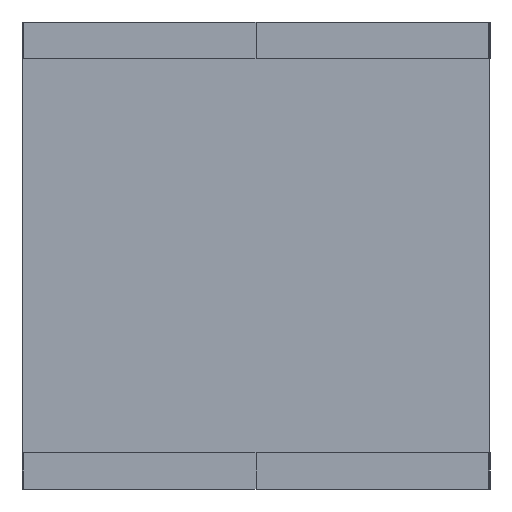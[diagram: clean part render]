
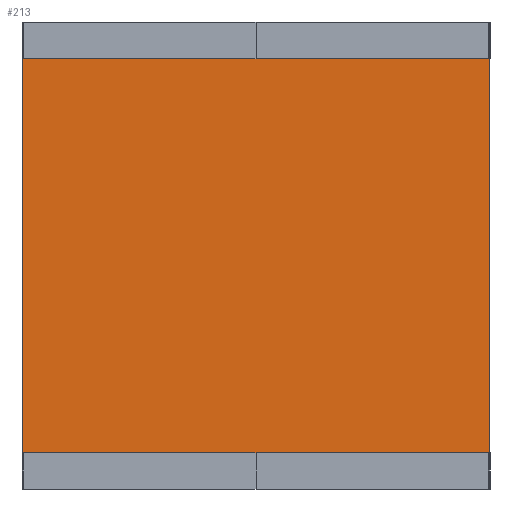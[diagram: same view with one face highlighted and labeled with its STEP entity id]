
A CAD part, top view. The second image highlights one B-rep face of the part: STEP entity #213.
In plain terms, the highlighted planar face has unit normal (0, 0, 1).
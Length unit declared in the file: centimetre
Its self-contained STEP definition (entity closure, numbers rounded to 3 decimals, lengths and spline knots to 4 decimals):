
#213=ADVANCED_FACE($,(#379),#2109,.T.);
#379=FACE_OUTER_BOUND($,#553,.T.);
#553=EDGE_LOOP($,(#1310,#1311,#1312,#1313));
#1310=ORIENTED_EDGE($,*,*,#1683,.T.);
#1311=ORIENTED_EDGE($,*,*,#1688,.F.);
#1312=ORIENTED_EDGE($,*,*,#1689,.F.);
#1313=ORIENTED_EDGE($,*,*,#1693,.F.);
#1683=EDGE_CURVE($,#1937,#1936,#2479,.T.);
#1688=EDGE_CURVE($,#1942,#1936,#2484,.T.);
#1689=EDGE_CURVE($,#1943,#1942,#2485,.T.);
#1693=EDGE_CURVE($,#1937,#1943,#2489,.T.);
#1936=VERTEX_POINT($,#4252);
#1937=VERTEX_POINT($,#4253);
#1942=VERTEX_POINT($,#4258);
#1943=VERTEX_POINT($,#4259);
#2109=PLANE($,#2743);
#2479=B_SPLINE_CURVE_WITH_KNOTS($,3,(#4218,#4219,#4220,#4221),.UNSPECIFIED.,
.F.,.F.,(4,4),(91.9,181.8),.UNSPECIFIED.);
#2484=B_SPLINE_CURVE_WITH_KNOTS($,1,(#4234,#4235),.UNSPECIFIED.,.F.,.F.,
(2,2),(0.,76.),.UNSPECIFIED.);
#2485=B_SPLINE_CURVE_WITH_KNOTS($,1,(#4236,#4237),.UNSPECIFIED.,.F.,.F.,
(2,2),(0.,89.9),.UNSPECIFIED.);
#2489=B_SPLINE_CURVE_WITH_KNOTS($,1,(#4244,#4245),.UNSPECIFIED.,.F.,.F.,
(2,2),(90.,166.),.UNSPECIFIED.);
#2743=AXIS2_PLACEMENT_3D($,#4251,#2912,$);
#2912=DIRECTION($,(0.,0.,1.));
#4218=CARTESIAN_POINT($,(449.95,57.,74.51));
#4219=CARTESIAN_POINT($,(419.9833,57.,74.51));
#4220=CARTESIAN_POINT($,(390.0167,57.,74.51));
#4221=CARTESIAN_POINT($,(360.05,57.,74.51));
#4234=CARTESIAN_POINT($,(360.05,-19.,74.51));
#4235=CARTESIAN_POINT($,(360.05,57.,74.51));
#4236=CARTESIAN_POINT($,(449.95,-19.,74.51));
#4237=CARTESIAN_POINT($,(360.05,-19.,74.51));
#4244=CARTESIAN_POINT($,(449.95,57.,74.51));
#4245=CARTESIAN_POINT($,(449.95,-19.,74.51));
#4251=CARTESIAN_POINT($,(360.05,-19.,74.51));
#4252=CARTESIAN_POINT($,(360.05,57.,74.51));
#4253=CARTESIAN_POINT($,(449.95,57.,74.51));
#4258=CARTESIAN_POINT($,(360.05,-19.,74.51));
#4259=CARTESIAN_POINT($,(449.95,-19.,74.51));
